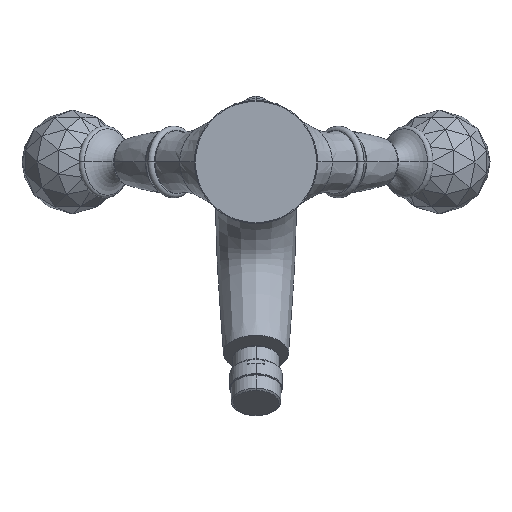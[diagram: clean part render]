
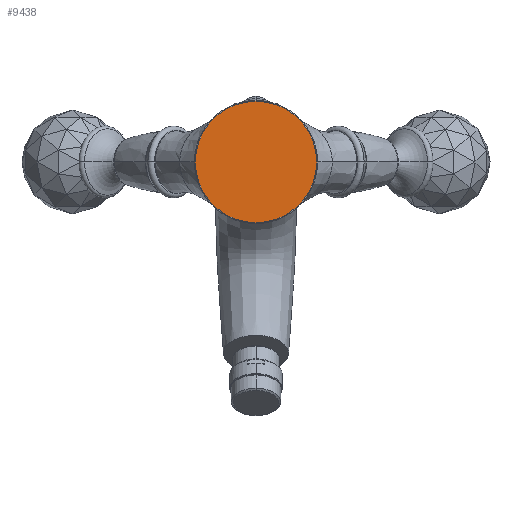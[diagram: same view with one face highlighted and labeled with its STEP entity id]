
A CAD part, front view. The second image highlights one B-rep face of the part: STEP entity #9438.
In plain terms, the highlighted planar face has unit normal (0, -1, 0).
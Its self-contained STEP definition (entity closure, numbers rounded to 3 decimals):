
#2422=CARTESIAN_POINT('',(0.,-7.5,0.));
#2423=DIRECTION('',(0.,-1.,0.));
#2424=DIRECTION('',(-1.,0.,0.));
#2425=AXIS2_PLACEMENT_3D('',#2422,#2423,#2424);
#2427=CARTESIAN_POINT('',(0.,-7.5,0.));
#2428=DIRECTION('',(0.,1.,0.));
#2429=DIRECTION('',(-1.,0.,0.));
#2430=AXIS2_PLACEMENT_3D('',#2427,#2428,#2429);
#2582=CARTESIAN_POINT('',(-29.35,-7.5,0.));
#2583=VERTEX_POINT('',#2582);
#2588=CARTESIAN_POINT('',(29.35,-7.5,0.));
#2589=VERTEX_POINT('',#2588);
#9429=CARTESIAN_POINT('',(0.,-7.5,0.));
#9430=DIRECTION('',(0.,1.,0.));
#9431=DIRECTION('',(1.,0.,0.));
#9432=AXIS2_PLACEMENT_3D('',#9429,#9430,#9431);
#9433=PLANE('',#9432);
#9434=ORIENTED_EDGE('',*,*,#9408,.F.);
#9435=ORIENTED_EDGE('',*,*,#9424,.T.);
#9436=EDGE_LOOP('',(#9434,#9435));
#9437=FACE_OUTER_BOUND('',#9436,.F.);
#9438=ADVANCED_FACE('',(#9437),#9433,.F.);
#2426=CIRCLE('',#2425,29.35);
#2431=CIRCLE('',#2430,29.35);
#9408=EDGE_CURVE('',#2583,#2589,#2426,.T.);
#9424=EDGE_CURVE('',#2583,#2589,#2431,.T.);
